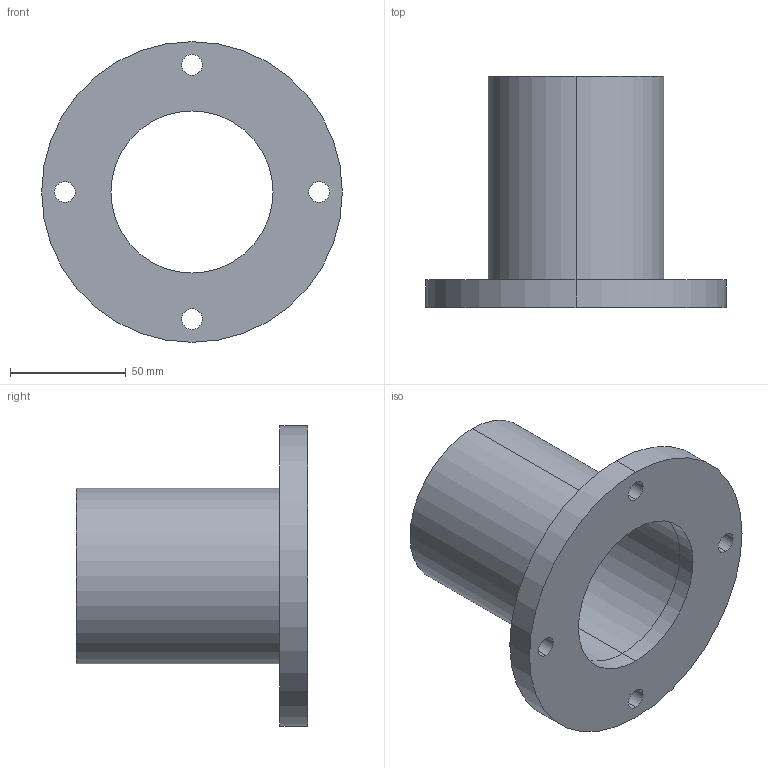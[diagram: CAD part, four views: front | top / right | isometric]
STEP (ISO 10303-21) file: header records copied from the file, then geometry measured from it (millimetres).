
FILE_DESCRIPTION (( 'STEP AP214' ), '1' );
FILE_NAME ('W5KR63.STEP', '2019-04-05T06:44:37', ( '' ), ( '' ), 'SwSTEP 2.0', 'SolidWorks 2018', '' );
FILE_SCHEMA (( 'AUTOMOTIVE_DESIGN' ));
Length unit declared in the file: millimetre
Products named in the file (1): W5KR63
Bounding box: 130 x 100 x 130 mm (x, y, z)
Volume: 170203.1 mm3; surface area: 70937.1 mm2
Topology: 2 solids, 2 shells, 23 faces, 54 edges, 36 vertices
Faces by surface type: cylinder 18, plane 5
Entity records: 751 total; most frequent: DIRECTION 138, CARTESIAN_POINT 114, ORIENTED_EDGE 108, AXIS2_PLACEMENT_3D 60, EDGE_CURVE 54, CIRCLE 36, EDGE_LOOP 36, VERTEX_POINT 36
